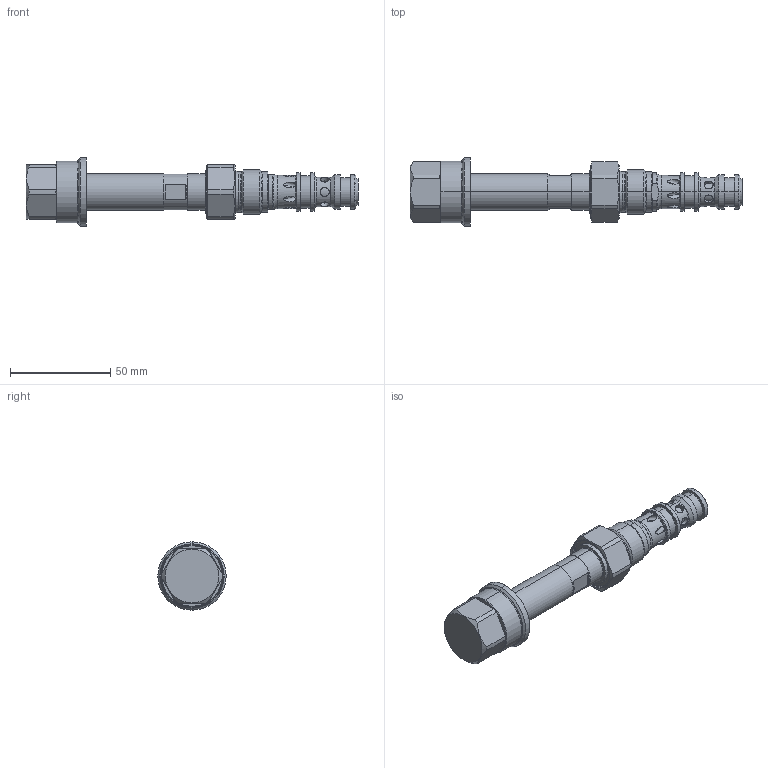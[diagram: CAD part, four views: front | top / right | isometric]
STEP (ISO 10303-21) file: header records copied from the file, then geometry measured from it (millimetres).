
FILE_DESCRIPTION (( 'STEP AP214' ), '1' );
FILE_NAME ('SLYPM22-FG-X5-K9.STEP', '2020-04-01T08:58:45', ( '' ), ( '' ), 'SwSTEP 2.0', 'SolidWorks 2018', '' );
FILE_SCHEMA (( 'AUTOMOTIVE_DESIGN' ));
Length unit declared in the file: millimetre
Products named in the file (1): SLYPM22-FG-X5-K9
Bounding box: 165.2 x 34 x 34 mm (x, y, z)
Volume: 58226.7 mm3; surface area: 15292 mm2
Topology: 1 solids, 1 shells, 246 faces, 581 edges, 365 vertices
Faces by surface type: cylinder 103, plane 72, torus 40, cone 31
Entity records: 11399 total; most frequent: CARTESIAN_POINT 3054, DIRECTION 1191, ORIENTED_EDGE 1162, EDGE_CURVE 581, AXIS2_PLACEMENT_3D 502, VERTEX_POINT 365, EDGE_LOOP 274, CIRCLE 255
